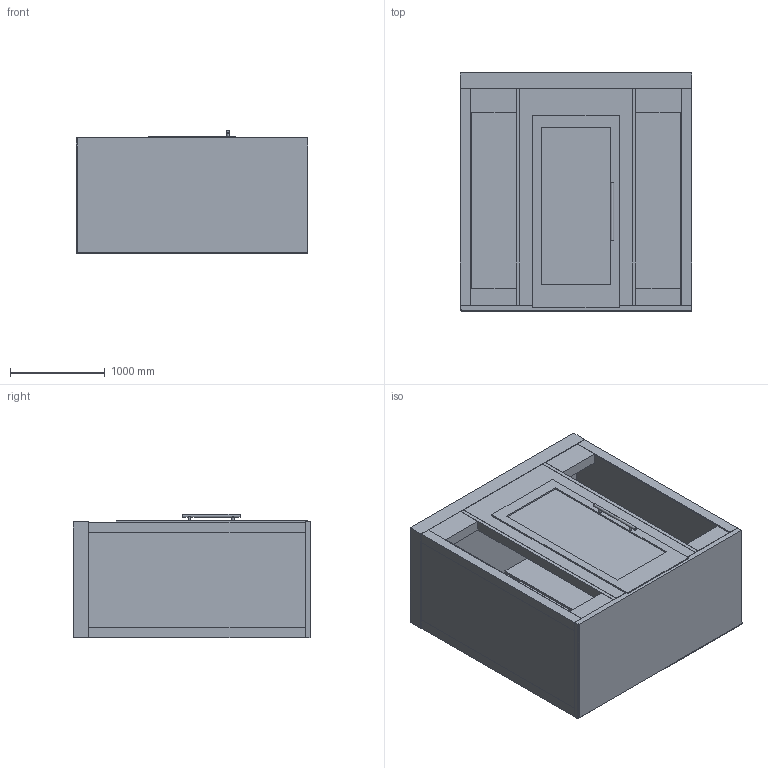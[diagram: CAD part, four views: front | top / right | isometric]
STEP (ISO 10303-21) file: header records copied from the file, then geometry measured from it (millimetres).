
FILE_DESCRIPTION(/* description */ (''),/* implementation_level */ '2;1');
FILE_NAME(/* name */ 'C:\Users\CLy\Desktop\DESKTOP\ZONEZ STEP\FZC.stp',/* time_stamp */ '2021-03-12T15:45:59-08:00',/* author */ ('CLy'),/* organization */ (''),/* preprocessor_version */ 'ST-DEVELOPER v18',/* originating_system */ 'Autodesk Inventor 2020',/* authorisation */ '');
FILE_SCHEMA (('AUTOMOTIVE_DESIGN { 1 0 10303 214 3 1 1 }'));
Length unit declared in the file: inch
Products named in the file (1): FZC (reference 2)
Bounding box: 2438.4 x 2504.82 x 1300.49 mm (x, y, z)
Volume: 2257217103.3 mm3; surface area: 41193568.7 mm2
Topology: 3 solids, 3 shells, 115 faces, 315 edges, 210 vertices
Faces by surface type: plane 97, torus 8, cylinder 6, bspline 4
Full cylindrical faces by diameter (mm): 25.4 x4, 31.75 x2
Entity records: 4636 total; most frequent: CARTESIAN_POINT 1591, ORIENTED_EDGE 630, DIRECTION 563, EDGE_CURVE 315, LINE 267, VECTOR 267, VERTEX_POINT 210, AXIS2_PLACEMENT_3D 148
